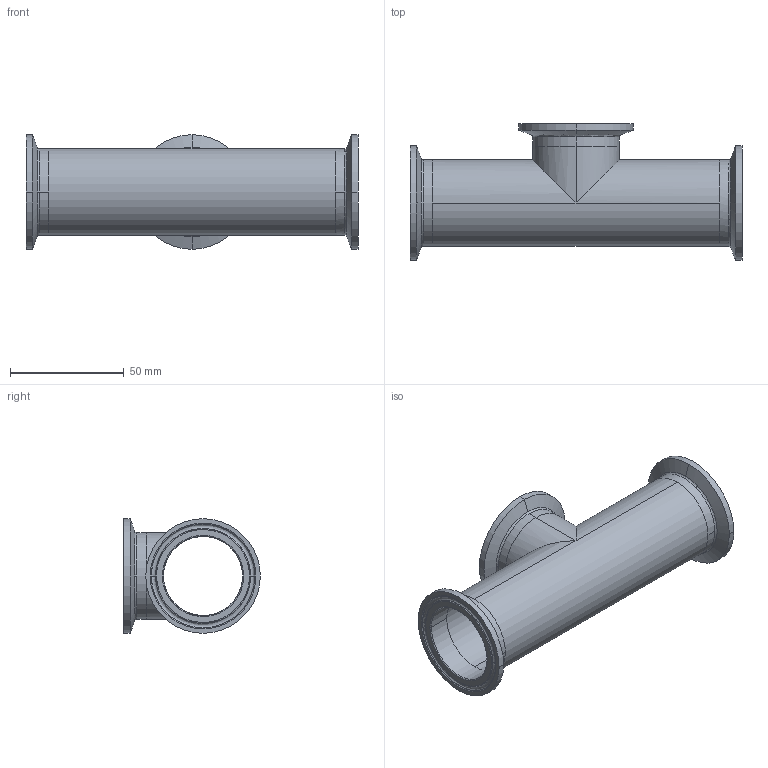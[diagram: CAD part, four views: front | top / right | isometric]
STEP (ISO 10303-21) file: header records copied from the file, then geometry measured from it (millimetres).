
FILE_DESCRIPTION (( 'STEP AP214' ), '1' );
FILE_NAME ('TEG7S6L1.5-...STEP', '2016-05-24T12:23:40', ( 'eran' ), ( '' ), 'SwSTEP 2.0', 'SolidWorks 2016', '' );
FILE_SCHEMA (( 'AUTOMOTIVE_DESIGN' ));
Length unit declared in the file: millimetre
Products named in the file (1): TEG7S6L1.5-..
Bounding box: 146 x 60.1 x 50.39 mm (x, y, z)
Volume: 39298.4 mm3; surface area: 42734.1 mm2
Topology: 4 solids, 4 shells, 88 faces, 220 edges, 142 vertices
Faces by surface type: bspline 30, cylinder 28, cone 18, plane 12
Entity records: 4646 total; most frequent: CARTESIAN_POINT 2485, DIRECTION 466, ORIENTED_EDGE 440, EDGE_CURVE 220, AXIS2_PLACEMENT_3D 209, CIRCLE 150, VERTEX_POINT 142, EDGE_LOOP 100
